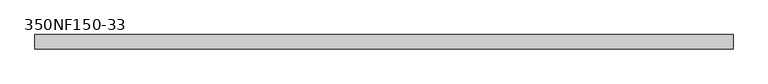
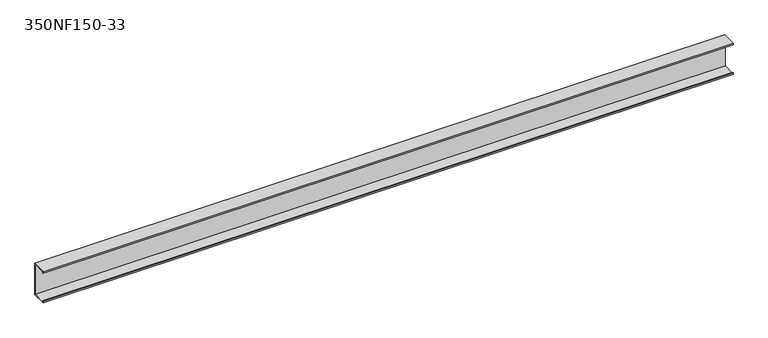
"""IFC4 building model written with IfcOpenShell, lengths in millimetres: beam geometry, BIMSF-SSMA-S : 350NF150-33."""

from ifc_helpers import new_model, si_unit, frame, origin, place, context, project, spatial, polyline, outline, extrude, source, transform, mapped, element, save


def beam_350nf150_33_0b14d3bd(model_context):
    return source(origin(), model_context, "Body", "SweptSolid", [
        extrude(outline(polyline([(19.05, 44.45), (19.05, -44.45), (-19.05, -44.45), (-19.05, -39.6748), (-18.1676842, -39.6748), (-18.1676842, -43.5676842), (18.1676842, -43.5676842), (18.1676842, 43.5676842), (-18.1676842, 43.5676842), (-18.1676842, 39.6748), (-19.05, 39.6748), (-19.05, 44.45), (19.05, 44.45)])), frame((-930.6431836, 0.0, 0.0), z_axis=(1.0, 0.0, 0.0), x_axis=(0.0, 1.0, 0.0)), (0.0, 0.0, 1.0), 1861.2863672),
    ])


if __name__ == "__main__":
    model = new_model("IFC4")
    model_context = context("Model", 3, world=origin())
    ifc_project = project(units=[si_unit("LENGTHUNIT", "METRE", prefix="MILLI")], contexts=[model_context])
    site = spatial("IfcSite", under=ifc_project)
    building = spatial("IfcBuilding", under=site)
    placement = place(None, origin())
    beam_350nf150_33_shape = beam_350nf150_33_0b14d3bd(model_context)
    element("IfcBeam", 1, ObjectType="BIMSF-SSMA-S : 350NF150-33", at=placement, inside=building, context=model_context, shape_type="MappedRepresentation", body=[
        mapped(beam_350nf150_33_shape, transform((0.0, 0.0, 0.0), x_axis=(1.0, 0.0, 0.0), y_axis=(0.0, 1.0, 0.0), z_axis=(0.0, 0.0, 1.0))),
    ])
    save(model, "model.ifc")
